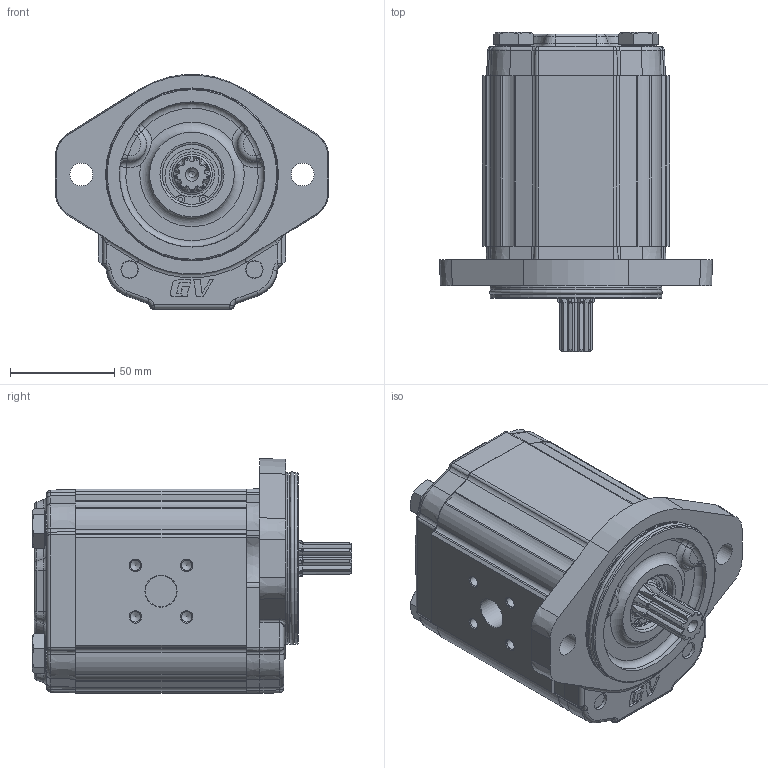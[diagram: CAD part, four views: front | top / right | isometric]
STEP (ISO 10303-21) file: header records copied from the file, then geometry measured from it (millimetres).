
FILE_DESCRIPTION(/* description */ ('Unknown'),/* implementation_level */ '2;1');
FILE_NAME(/* name */ 'G2P5751ISRA',/* time_stamp */ '2026-06-03T17:59:19+02:00',/* author */ ('Unknown'),/* organization */ ('Unknown'),/* preprocessor_version */ 'ST-DEVELOPER v16.7',/* originating_system */ 'Solid Edge',/* authorisation */ 'Unknown');
FILE_SCHEMA (('AUTOMOTIVE_DESIGN {1 0 10303 214 3 1 1}'));
Length unit declared in the file: millimetre
Products named in the file (5): G2P5751ISRA; G2P51; 2I; G2SRH82; GP219-A
Assembly tree (4 placements, depth 2):
  G2P5751ISRA
    G2P51
    2I
    G2SRH82
    GP219-A
Bounding box: 131.25 x 153.6 x 112.93 mm (x, y, z)
Volume: 939176 mm3; surface area: 123808.2 mm2
Topology: 4 solids, 7 shells, 1062 faces, 3511 edges, 2191 vertices
Faces by surface type: cylinder 405, plane 345, cone 144, torus 94, bspline 70, sphere 4
Full cylindrical faces by diameter (mm): 2 x2, 5 x8, 8.376 x6, 9.9 x4, 10 x4, 10.5 x8, 11 x2, 15 x1, 15.8 x4, 16 x4, 17.42 x1, 17.48 x2, 18 x4, 18.724 x1, 20 x1, 20.595 x1, 21.741 x1, 22 x2, 25.834 x1, 28.56 x1, 28.57 x1, 28.8 x1, 30.4 x1, 79.6 x2, 82.5 x2
Entity records: 51639 total; most frequent: CARTESIAN_POINT 15195, ORIENTED_EDGE 6666, DIRECTION 5954, EDGE_CURVE 3333, AXIS2_PLACEMENT_3D 2307, VERTEX_POINT 2146, LINE 1340, VECTOR 1340
